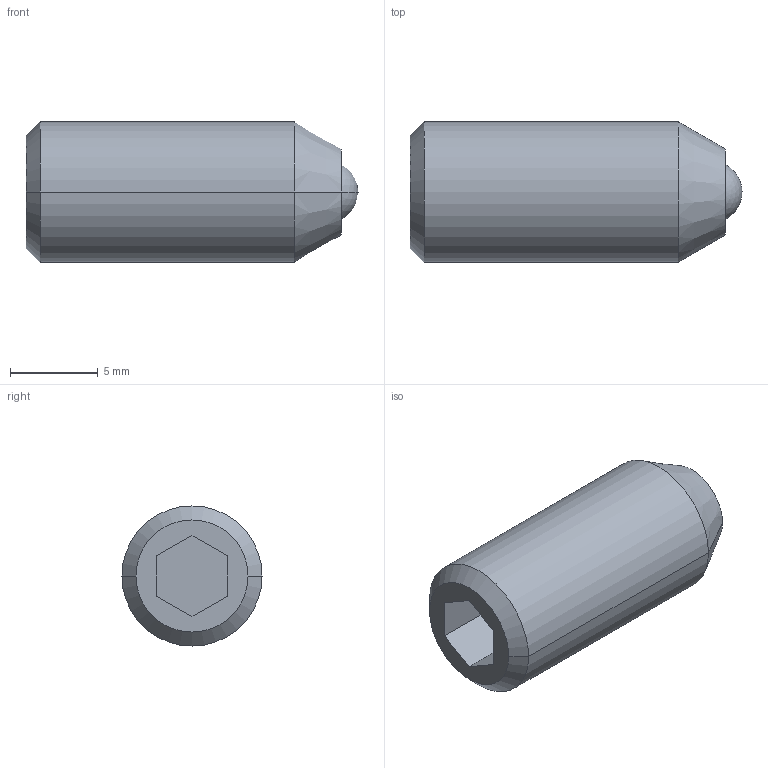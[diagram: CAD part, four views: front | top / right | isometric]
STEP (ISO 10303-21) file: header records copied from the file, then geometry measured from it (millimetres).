
FILE_DESCRIPTION (( 'STEP AP214' ), '1' );
FILE_NAME ('615.9-M8-KSN.step', '2022-12-09T10:30:55', ( '' ), ( '' ), 'SwSTEP 2.0', 'SolidWorks 2022', '' );
FILE_SCHEMA (( 'AUTOMOTIVE_DESIGN' ));
Length unit declared in the file: millimetre
Products named in the file (1): 615.9-M8-KSN
Bounding box: 18.95 x 8 x 8 mm (x, y, z)
Volume: 814.2 mm3; surface area: 548.9 mm2
Topology: 1 solids, 1 shells, 23 faces, 48 edges, 31 vertices
Faces by surface type: plane 11, cylinder 6, cone 4, sphere 2
Entity records: 685 total; most frequent: DIRECTION 116, CARTESIAN_POINT 103, ORIENTED_EDGE 96, EDGE_CURVE 48, AXIS2_PLACEMENT_3D 44, VERTEX_POINT 31, VECTOR 28, LINE 28
